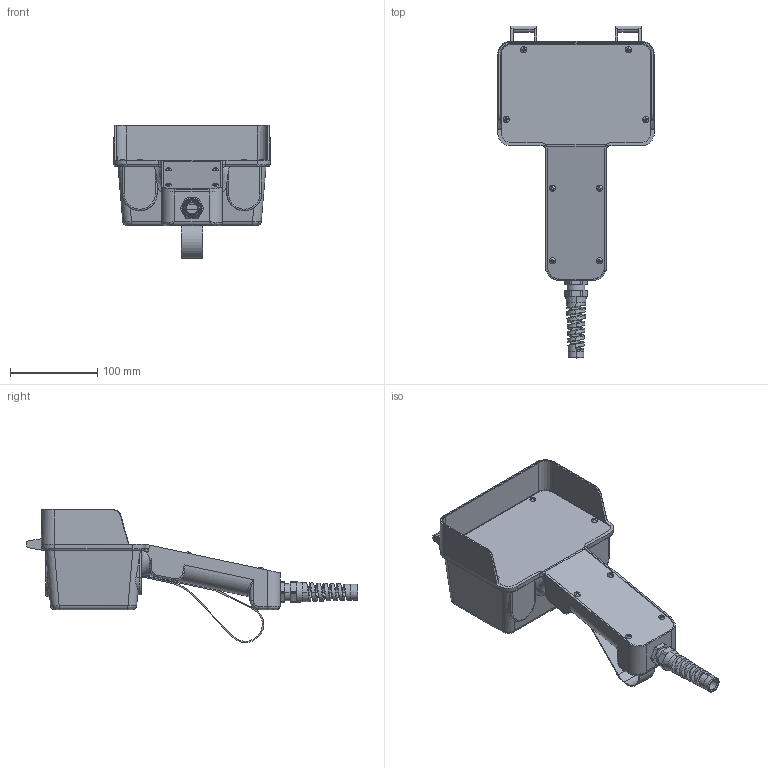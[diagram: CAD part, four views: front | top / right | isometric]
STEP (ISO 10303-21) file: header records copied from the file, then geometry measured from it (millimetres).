
FILE_DESCRIPTION (( 'STEP AP214' ), '1' );
FILE_NAME ('060PMG.STEP', '2021-12-14T12:39:57', ( '' ), ( '' ), 'SwSTEP 2.0', 'SolidWorks 2013', '' );
FILE_SCHEMA (( 'AUTOMOTIVE_DESIGN' ));
Length unit declared in the file: millimetre
Products named in the file (1): 060PMG
Bounding box: 180 x 381 x 152.71 mm (x, y, z)
Volume: 517512.9 mm3; surface area: 304962.5 mm2
Topology: 19 solids, 19 shells, 1244 faces, 3358 edges, 2163 vertices
Faces by surface type: plane 496, cylinder 368, cone 244, bspline 120, sphere 16
Entity records: 70404 total; most frequent: CARTESIAN_POINT 27131, ORIENTED_EDGE 6662, DIRECTION 5527, EDGE_CURVE 3331, VERTEX_POINT 2163, AXIS2_PLACEMENT_3D 2068, VECTOR 1391, LINE 1391
